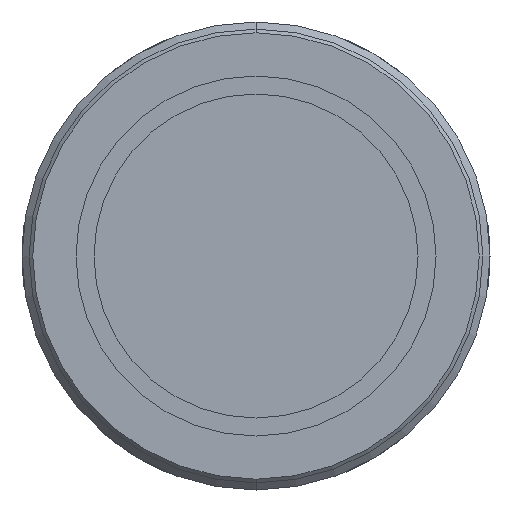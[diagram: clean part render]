
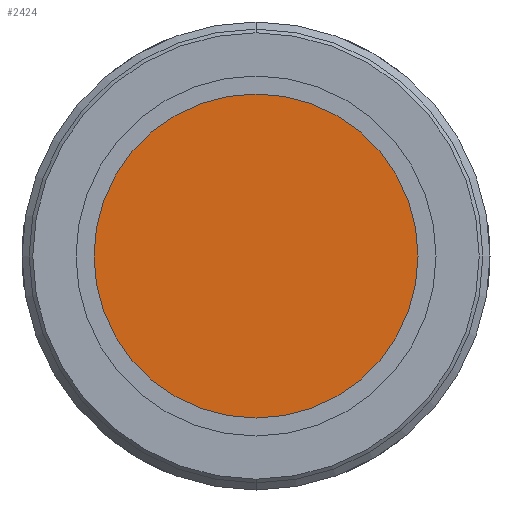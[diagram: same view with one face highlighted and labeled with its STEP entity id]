
A CAD part, front view. The second image highlights one B-rep face of the part: STEP entity #2424.
In plain terms, the highlighted planar face has unit normal (0, -1, 0).
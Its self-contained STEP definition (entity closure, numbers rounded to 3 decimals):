
#164 = DIRECTION ( 'NONE',  ( 0., 1., 0. ) ) ;
#165 = ORIENTED_EDGE ( 'NONE', *, *, #1433, .T. ) ;
#1433 = EDGE_CURVE ( 'NONE', #2426, #1583, #7367, .T. ) ;
#1583 = VERTEX_POINT ( 'NONE', #6727 ) ;
#2392 = DIRECTION ( 'NONE',  ( 0., -1., 0. ) ) ;
#2424 = ADVANCED_FACE ( 'NONE', ( #11466 ), #4881, .F. ) ;
#2426 = VERTEX_POINT ( 'NONE', #8660 ) ;
#2611 = AXIS2_PLACEMENT_3D ( 'NONE', #8084, #2392, #9054 ) ;
#3567 = DIRECTION ( 'NONE',  ( 0., -1., 0. ) ) ;
#3704 = EDGE_LOOP ( 'NONE', ( #10397, #165 ) ) ;
#4862 = EDGE_CURVE ( 'NONE', #1583, #2426, #5219, .T. ) ;
#4881 = PLANE ( 'NONE',  #9546 ) ;
#5219 = CIRCLE ( 'NONE', #2611, 22.5 ) ;
#6727 = CARTESIAN_POINT ( 'NONE',  ( 0., -42.899, -22.5 ) ) ;
#6789 = DIRECTION ( 'NONE',  ( 0., 0., 1. ) ) ;
#6867 = AXIS2_PLACEMENT_3D ( 'NONE', #9265, #3567, #10205 ) ;
#7367 = CIRCLE ( 'NONE', #6867, 22.5 ) ;
#8084 = CARTESIAN_POINT ( 'NONE',  ( 0., -42.899, 0. ) ) ;
#8660 = CARTESIAN_POINT ( 'NONE',  ( 0., -42.899, 22.5 ) ) ;
#9054 = DIRECTION ( 'NONE',  ( 0., 0., -1. ) ) ;
#9265 = CARTESIAN_POINT ( 'NONE',  ( 0., -42.899, 0. ) ) ;
#9546 = AXIS2_PLACEMENT_3D ( 'NONE', #11458, #164, #6789 ) ;
#10205 = DIRECTION ( 'NONE',  ( 0., 0., -1. ) ) ;
#10397 = ORIENTED_EDGE ( 'NONE', *, *, #4862, .T. ) ;
#11458 = CARTESIAN_POINT ( 'NONE',  ( -22.5, -42.899, 0. ) ) ;
#11466 = FACE_OUTER_BOUND ( 'NONE', #3704, .T. ) ;
